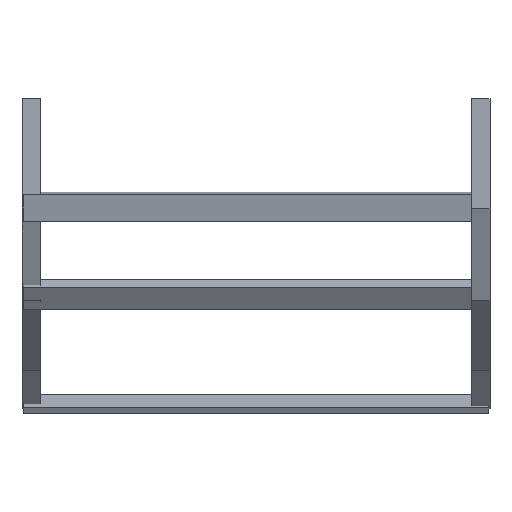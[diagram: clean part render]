
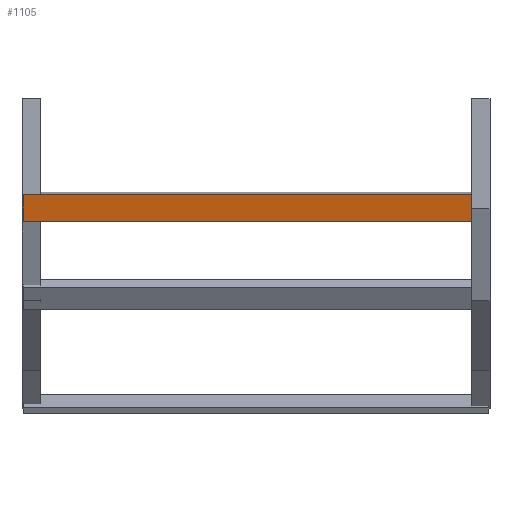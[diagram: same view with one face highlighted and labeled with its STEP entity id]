
A CAD part, front view. The second image highlights one B-rep face of the part: STEP entity #1105.
In plain terms, the highlighted planar face has unit normal (0, -0.981, -0.195) as drawn and (0, -1, 0) by its records, which use the part's own axes.
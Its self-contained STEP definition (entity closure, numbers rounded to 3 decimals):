
#154 = EDGE_CURVE ( 'NONE', #252, #1481, #1786, .T. ) ;
#252 = VERTEX_POINT ( 'NONE', #481 ) ;
#334 = DIRECTION ( 'NONE',  ( 0., 0., -1. ) ) ;
#369 = CARTESIAN_POINT ( 'NONE',  ( 348., 0., -20.25 ) ) ;
#383 = DIRECTION ( 'NONE',  ( 0., 0., 1. ) ) ;
#417 = LINE ( 'NONE', #527, #955 ) ;
#422 = CARTESIAN_POINT ( 'NONE',  ( 348., 0., -20.25 ) ) ;
#433 = EDGE_CURVE ( 'NONE', #1801, #586, #417, .T. ) ;
#468 = CARTESIAN_POINT ( 'NONE',  ( -348., 0., -20.25 ) ) ;
#474 = CARTESIAN_POINT ( 'NONE',  ( 348., 0., 20.25 ) ) ;
#481 = CARTESIAN_POINT ( 'NONE',  ( 348., 0., 20.25 ) ) ;
#515 = EDGE_CURVE ( 'NONE', #252, #1801, #549, .T. ) ;
#527 = CARTESIAN_POINT ( 'NONE',  ( -348., 0., 20.25 ) ) ;
#542 = DIRECTION ( 'NONE',  ( -1., 0., 0. ) ) ;
#549 = LINE ( 'NONE', #1710, #590 ) ;
#586 = VERTEX_POINT ( 'NONE', #468 ) ;
#590 = VECTOR ( 'NONE', #763, 1000. ) ;
#643 = FACE_OUTER_BOUND ( 'NONE', #1649, .T. ) ;
#744 = CARTESIAN_POINT ( 'NONE',  ( -348., 0., 20.25 ) ) ;
#763 = DIRECTION ( 'NONE',  ( -1., 0., 0. ) ) ;
#904 = ORIENTED_EDGE ( 'NONE', *, *, #515, .T. ) ;
#911 = EDGE_CURVE ( 'NONE', #1481, #586, #1732, .T. ) ;
#955 = VECTOR ( 'NONE', #1113, 1000. ) ;
#984 = AXIS2_PLACEMENT_3D ( 'NONE', #1239, #1257, #383 ) ;
#995 = ORIENTED_EDGE ( 'NONE', *, *, #154, .F. ) ;
#1088 = PLANE ( 'NONE',  #984 ) ;
#1105 = ADVANCED_FACE ( 'NONE', ( #643 ), #1088, .F. ) ;
#1113 = DIRECTION ( 'NONE',  ( 0., 0., -1. ) ) ;
#1125 = ORIENTED_EDGE ( 'NONE', *, *, #911, .F. ) ;
#1239 = CARTESIAN_POINT ( 'NONE',  ( 348., 0., 20.25 ) ) ;
#1257 = DIRECTION ( 'NONE',  ( 0., 1., 0. ) ) ;
#1261 = VECTOR ( 'NONE', #542, 1000. ) ;
#1306 = ORIENTED_EDGE ( 'NONE', *, *, #433, .T. ) ;
#1478 = VECTOR ( 'NONE', #334, 1000. ) ;
#1481 = VERTEX_POINT ( 'NONE', #369 ) ;
#1649 = EDGE_LOOP ( 'NONE', ( #1306, #1125, #995, #904 ) ) ;
#1710 = CARTESIAN_POINT ( 'NONE',  ( 348., 0., 20.25 ) ) ;
#1732 = LINE ( 'NONE', #422, #1261 ) ;
#1786 = LINE ( 'NONE', #474, #1478 ) ;
#1801 = VERTEX_POINT ( 'NONE', #744 ) ;
